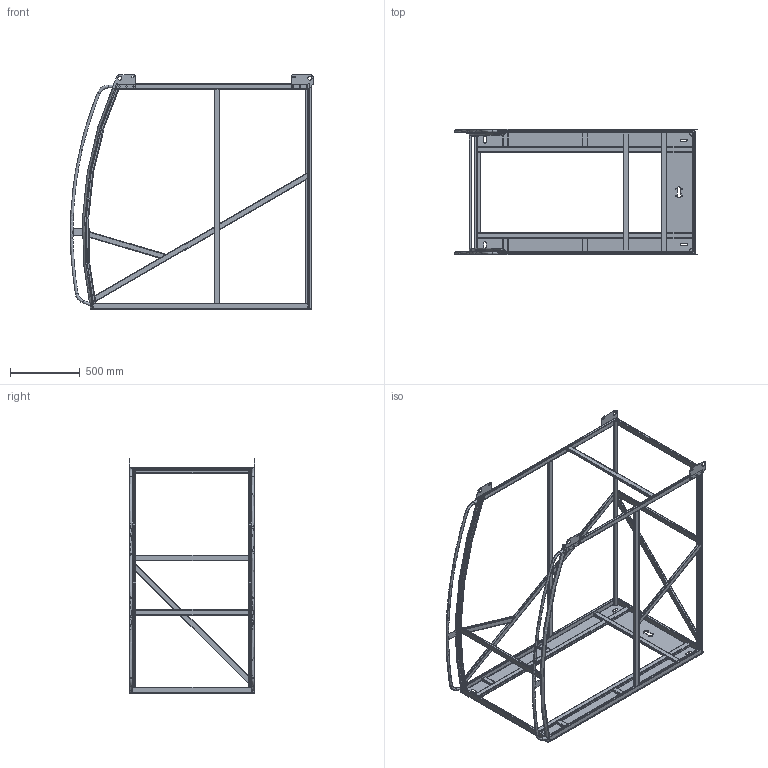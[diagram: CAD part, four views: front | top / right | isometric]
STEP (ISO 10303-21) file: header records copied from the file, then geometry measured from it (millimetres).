
FILE_DESCRIPTION(/* description */ ('','CAx-IF Rec.Pracs.---Representation and Presentation of Product Manufacturing Information (PMI)---4.0---2014-10-13'),/* implementation_level */ '2;1');
FILE_NAME(/* name */ 'C:\Temp\КГ1.00_каркас.stp',/* time_stamp */ '2021-01-22T12:21:29+03:00',/* author */ ('avtor'),/* organization */ (''),/* preprocessor_version */ 'ST-DEVELOPER v18.1',/* originating_system */ 'Autodesk Inventor 2021',/* authorisation */ '');
FILE_SCHEMA (('AP242_MANAGED_MODEL_BASED_3D_ENGINEERING_MIM_LF { 1 0 10303 442 1 1 4 }'));
Length unit declared in the file: millimetre
Products named in the file (43): КГ1.00_каркас; КГ1.00_каркас1; КГ1.00_каркас2; КГ1.00_каркас3; КГ1.00_каркас4; КГ1.00_каркас5; КГ1.00_каркас6; КГ1.00_каркас7; КГ1.00_каркас8; КГ1.00_каркас9; КГ1.00_каркас1
0; КГ1.00_каркас1
1; КГ1.00_каркас1
2; КГ1.00_каркас1
3; КГ1.00_каркас1
4; КГ1.00_каркас1
5; КГ1.00_каркас1
6; КГ1.00_каркас1
7; КГ1.00_каркас1
8; КГ1.00_каркас1
9; КГ1.00_каркас2
0; КГ1.00_каркас2
1; КГ1.00_каркас2
2; КГ1.00_каркас2
3; КГ1.00_каркас2
4; КГ1.00_каркас2
5; КГ1.00_каркас2
6; КГ1.00_каркас2
7; КГ1.00_каркас2
8; КГ1.00_каркас2
9; КГ1.00_каркас3
0; КГ1.00_каркас3
1; КГ1.00_каркас3
2; КГ1.00_каркас3
3; КГ1.00_каркас3
4; КГ1.00_каркас3
5; КГ1.00_каркас3
6; КГ1.00_каркас3
7; КГ1.00_каркас3
8; КГ1.00_каркас3
9 ...
Assembly tree (42 placements, depth 2):
  КГ1.00_каркас
    КГ1.00_каркас1
    КГ1.00_каркас2
    КГ1.00_каркас3
    КГ1.00_каркас4
    КГ1.00_каркас5
    КГ1.00_каркас6
    КГ1.00_каркас7
    КГ1.00_каркас8
    КГ1.00_каркас9
    КГ1.00_каркас1
0
    КГ1.00_каркас1
1
    КГ1.00_каркас1
2
    КГ1.00_каркас1
3
    КГ1.00_каркас1
4
    КГ1.00_каркас1
5
    КГ1.00_каркас1
6
    КГ1.00_каркас1
7
    КГ1.00_каркас1
8
    КГ1.00_каркас1
9
    КГ1.00_каркас2
0
    КГ1.00_каркас2
1
    КГ1.00_каркас2
2
    КГ1.00_каркас2
3
    КГ1.00_каркас2
4
    КГ1.00_каркас2
5
    КГ1.00_каркас2
6
    КГ1.00_каркас2
7
    КГ1.00_каркас2
8
    КГ1.00_каркас2
9
    КГ1.00_каркас3
0
    КГ1.00_каркас3
1
    КГ1.00_каркас3
2
    КГ1.00_каркас3
3
    КГ1.00_каркас3
4
    КГ1.00_каркас3
5
    КГ1.00_каркас3
6
    КГ1.00_каркас3
7
    КГ1.00_каркас3
8
    КГ1.00_каркас3
9
    КГ1.00_каркас4
0
    КГ1.00_каркас4
1
    КГ1.00_каркас4
2
Bounding box: 1746.76 x 904 x 1688 mm (x, y, z)
Volume: 9312267.1 mm3; surface area: 8546993.4 mm2
Topology: 42 solids, 42 shells, 792 faces, 2173 edges, 1455 vertices
Faces by surface type: plane 381, cylinder 351, torus 46, bspline 14
Full cylindrical faces by diameter (mm): 6.5 x4, 10 x12, 15 x4, 20 x4, 30 x4
Entity records: 33177 total; most frequent: CARTESIAN_POINT 7239, DIRECTION 5711, ORIENTED_EDGE 4346, AXIS2_PLACEMENT_3D 2221, EDGE_CURVE 2173, VERTEX_POINT 1455, LINE 1269, VECTOR 1269
